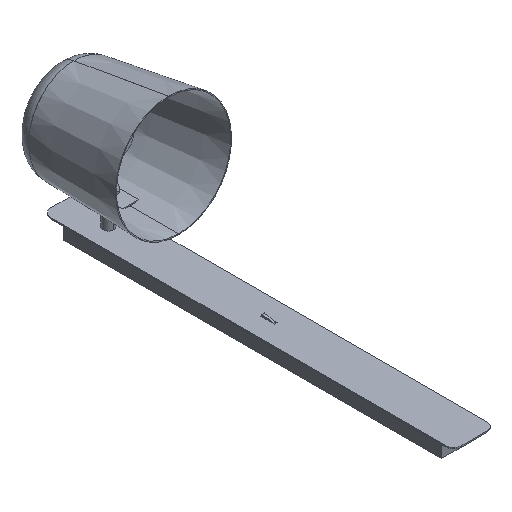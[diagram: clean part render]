
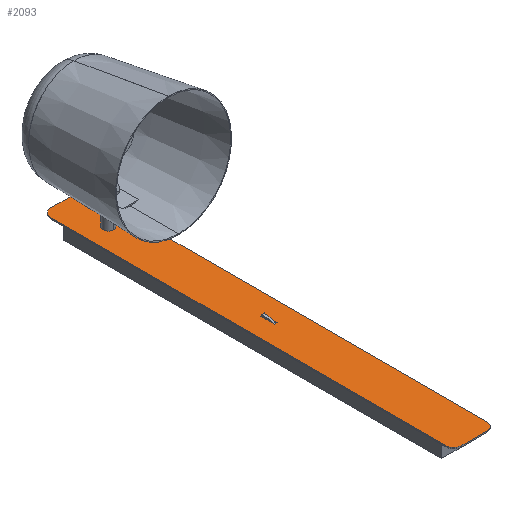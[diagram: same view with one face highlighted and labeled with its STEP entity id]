
A CAD part, isometric view. The second image highlights one B-rep face of the part: STEP entity #2093.
In plain terms, the highlighted planar face has unit normal (0, 0, 1).
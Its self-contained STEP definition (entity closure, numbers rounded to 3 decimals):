
#28=FACE_BOUND('',#514,.T.);
#210=PLANE('',#2838);
#358=FACE_OUTER_BOUND('',#513,.T.);
#513=EDGE_LOOP('',(#1924,#1925,#1926,#1927,#1928,#1929,#1930,#1931));
#514=EDGE_LOOP('',(#1932,#1933,#1934,#1935));
#602=CIRCLE('',#2822,10.);
#604=CIRCLE('',#2826,10.);
#606=CIRCLE('',#2830,10.);
#608=CIRCLE('',#2834,10.);
#811=VERTEX_POINT('',#4921);
#812=VERTEX_POINT('',#4922);
#815=VERTEX_POINT('',#4930);
#817=VERTEX_POINT('',#4936);
#819=VERTEX_POINT('',#4945);
#820=VERTEX_POINT('',#4946);
#823=VERTEX_POINT('',#4954);
#825=VERTEX_POINT('',#4960);
#827=VERTEX_POINT('',#4966);
#829=VERTEX_POINT('',#4972);
#831=VERTEX_POINT('',#4978);
#833=VERTEX_POINT('',#4984);
#1166=EDGE_CURVE('',#811,#812,#2330,.T.);
#1170=EDGE_CURVE('',#815,#811,#2334,.T.);
#1173=EDGE_CURVE('',#817,#815,#2337,.T.);
#1176=EDGE_CURVE('',#812,#817,#2340,.T.);
#1178=EDGE_CURVE('',#819,#820,#602,.T.);
#1182=EDGE_CURVE('',#823,#819,#2344,.T.);
#1185=EDGE_CURVE('',#825,#823,#604,.T.);
#1188=EDGE_CURVE('',#827,#825,#2348,.T.);
#1191=EDGE_CURVE('',#829,#827,#606,.T.);
#1194=EDGE_CURVE('',#831,#829,#2352,.T.);
#1197=EDGE_CURVE('',#833,#831,#608,.T.);
#1200=EDGE_CURVE('',#820,#833,#2356,.T.);
#1924=ORIENTED_EDGE('',*,*,#1200,.T.);
#1925=ORIENTED_EDGE('',*,*,#1197,.T.);
#1926=ORIENTED_EDGE('',*,*,#1194,.T.);
#1927=ORIENTED_EDGE('',*,*,#1191,.T.);
#1928=ORIENTED_EDGE('',*,*,#1188,.T.);
#1929=ORIENTED_EDGE('',*,*,#1185,.T.);
#1930=ORIENTED_EDGE('',*,*,#1182,.T.);
#1931=ORIENTED_EDGE('',*,*,#1178,.T.);
#1932=ORIENTED_EDGE('',*,*,#1176,.T.);
#1933=ORIENTED_EDGE('',*,*,#1173,.T.);
#1934=ORIENTED_EDGE('',*,*,#1170,.T.);
#1935=ORIENTED_EDGE('',*,*,#1166,.T.);
#2093=ADVANCED_FACE('',(#358,#28),#210,.T.);
#2330=LINE('',#4923,#2570);
#2334=LINE('',#4931,#2574);
#2337=LINE('',#4937,#2577);
#2340=LINE('',#4942,#2580);
#2344=LINE('',#4955,#2584);
#2348=LINE('',#4967,#2588);
#2352=LINE('',#4979,#2592);
#2356=LINE('',#4990,#2596);
#2570=VECTOR('',#3492,304.8);
#2574=VECTOR('',#3498,304.8);
#2577=VECTOR('',#3503,304.8);
#2580=VECTOR('',#3508,304.8);
#2584=VECTOR('',#3520,304.8);
#2588=VECTOR('',#3532,304.8);
#2592=VECTOR('',#3544,304.8);
#2596=VECTOR('',#3556,304.8);
#2822=AXIS2_PLACEMENT_3D('',#4947,#3512,#3513);
#2826=AXIS2_PLACEMENT_3D('',#4961,#3525,#3526);
#2830=AXIS2_PLACEMENT_3D('',#4973,#3537,#3538);
#2834=AXIS2_PLACEMENT_3D('',#4985,#3549,#3550);
#2838=AXIS2_PLACEMENT_3D('',#4993,#3560,#3561);
#3492=DIRECTION('',(1.,0.,0.));
#3498=DIRECTION('',(0.,1.,0.));
#3503=DIRECTION('',(-1.,0.,0.));
#3508=DIRECTION('',(0.,-1.,0.));
#3512=DIRECTION('center_axis',(0.,0.,
1.));
#3513=DIRECTION('ref_axis',(1.,0.,0.));
#3520=DIRECTION('',(0.,1.,0.));
#3525=DIRECTION('center_axis',(0.,0.,
1.));
#3526=DIRECTION('ref_axis',(1.,0.,0.));
#3532=DIRECTION('',(1.,0.,0.));
#3537=DIRECTION('center_axis',(0.,0.,
1.));
#3538=DIRECTION('ref_axis',(-1.,0.,0.));
#3544=DIRECTION('',(0.,-1.,0.));
#3549=DIRECTION('center_axis',(0.,0.,
1.));
#3550=DIRECTION('ref_axis',(-1.,0.,0.));
#3556=DIRECTION('',(-1.,0.,0.));
#3560=DIRECTION('center_axis',(0.,0.,
1.));
#3561=DIRECTION('ref_axis',(-1.,0.,0.));
#4921=CARTESIAN_POINT('',(-8.5,1.6,21.5));
#4922=CARTESIAN_POINT('',(8.5,1.6,21.5));
#4923=CARTESIAN_POINT('',(-8.5,1.6,21.5));
#4930=CARTESIAN_POINT('',(-8.5,-1.6,21.5));
#4931=CARTESIAN_POINT('',(-8.5,-1.6,21.5));
#4936=CARTESIAN_POINT('',(8.5,-1.6,21.5));
#4937=CARTESIAN_POINT('',(8.5,-1.6,21.5));
#4942=CARTESIAN_POINT('',(8.5,1.6,21.5));
#4945=CARTESIAN_POINT('',(250.,14.728,21.5));
#4946=CARTESIAN_POINT('',(240.,24.728,21.5));
#4947=CARTESIAN_POINT('Origin',(240.,14.728,21.5));
#4954=CARTESIAN_POINT('',(250.,-15.272,21.5));
#4955=CARTESIAN_POINT('',(250.,-15.272,21.5));
#4960=CARTESIAN_POINT('',(240.,-25.272,21.5));
#4961=CARTESIAN_POINT('Origin',(240.,-15.272,21.5));
#4966=CARTESIAN_POINT('',(-240.,-25.272,21.5));
#4967=CARTESIAN_POINT('',(-240.,-25.272,21.5));
#4972=CARTESIAN_POINT('',(-250.,-15.272,21.5));
#4973=CARTESIAN_POINT('Origin',(-240.,-15.272,21.5));
#4978=CARTESIAN_POINT('',(-250.,14.728,21.5));
#4979=CARTESIAN_POINT('',(-250.,14.728,21.5));
#4984=CARTESIAN_POINT('',(-240.,24.728,21.5));
#4985=CARTESIAN_POINT('Origin',(-240.,14.728,21.5));
#4990=CARTESIAN_POINT('',(240.,24.728,21.5));
#4993=CARTESIAN_POINT('Origin',(-240.,24.728,21.5));
